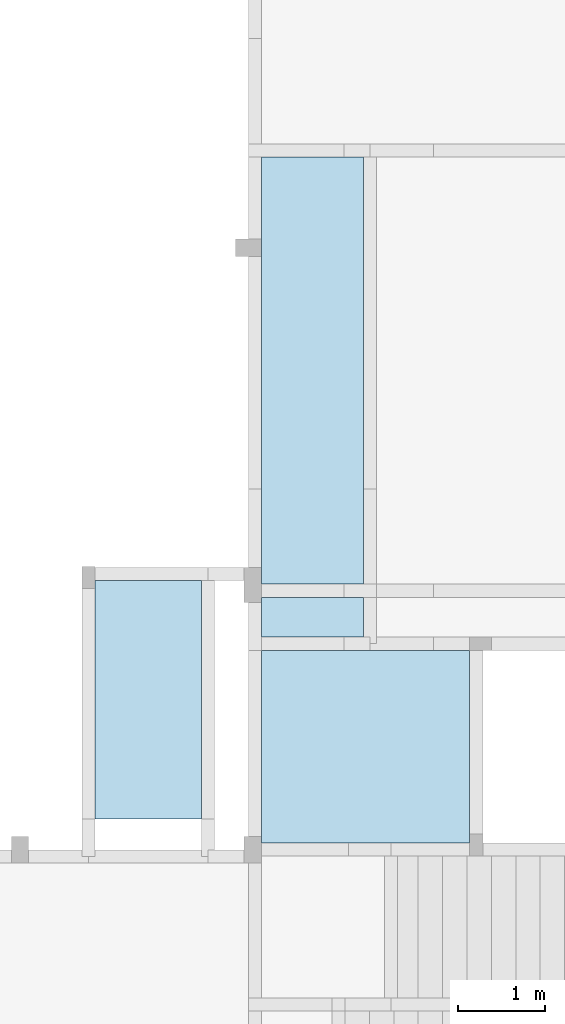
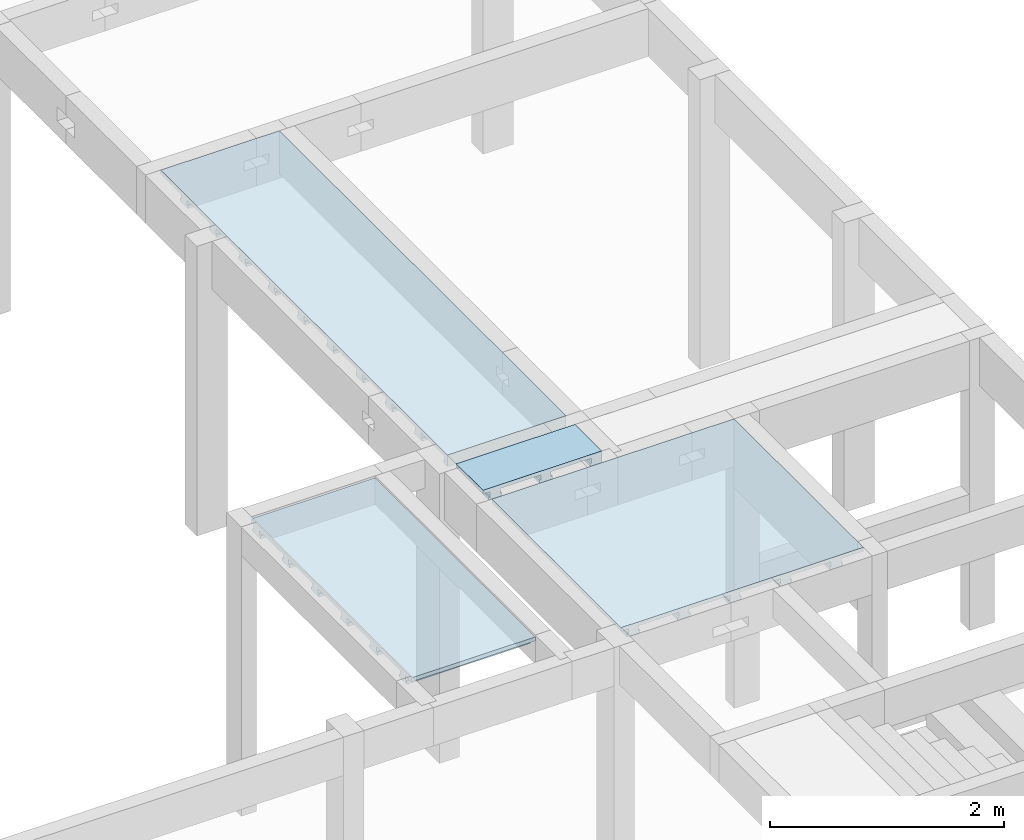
# One storey, part 15 of 21: 4 slabs.
"""IFC4 building model written with IfcOpenShell, lengths in centimetres."""

from ifc_helpers import new_model, si_unit, derived_unit, frame, origin_with_axes, place, context, project, spatial, polyline, outline, extrude, faceted_brep, material, element, save


model = new_model("IFC4")

# Units and contexts
model_context = context("Model", 3, precision=1e-05, world=origin_with_axes(), identifier="Body")
ifc_project = project(units=[si_unit("LENGTHUNIT", "METRE", prefix="CENTI"), si_unit("VOLUMEUNIT", "CUBIC_METRE"), si_unit("AREAUNIT", "SQUARE_METRE"), si_unit("POWERUNIT", "WATT"), si_unit("LUMINOUSFLUXUNIT", "LUMEN"), si_unit("ELECTRICCURRENTUNIT", "AMPERE"), si_unit("PRESSUREUNIT", "PASCAL", prefix="KILO"), si_unit("MASSUNIT", "GRAM", prefix="KILO"), si_unit("PLANEANGLEUNIT", "RADIAN"), derived_unit("VOLUMETRICFLOWRATEUNIT", [(si_unit("LENGTHUNIT", "METRE"), 3), (si_unit("TIMEUNIT", "SECOND"), -1)])], contexts=[model_context])

# Site, building, storey
site_placement = place(None, origin_with_axes())
site = spatial("IfcSite", under=ifc_project, at=site_placement)
building_placement = place(site_placement, frame((0.0, 0.0, -295.0)))
building = spatial("IfcBuilding", under=site, at=building_placement)
placement_1 = place(building_placement, origin_with_axes())
placement_2 = place(placement_1, frame((0.0, 0.0, 101.0), z_axis=(0.0, 0.0, 1.0), x_axis=(1.0, 0.0, 0.0)))
placement_3 = place(placement_2, frame((0.0, 0.0, 204.0), z_axis=(0.0, 0.0, 1.0), x_axis=(1.0, 0.0, 0.0)))
placement_4 = place(placement_3, frame((0.0, 0.0, 292.0), z_axis=(0.0, 0.0, 1.0), x_axis=(1.0, 0.0, 0.0)))
storey_placement = place(placement_4, frame((0.0, 0.0, 302.0), z_axis=(0.0, 0.0, 1.0), x_axis=(1.0, 0.0, 0.0)))
storey = spatial("IfcBuildingStorey", under=building, at=storey_placement, Name="PAVTO 02", CompositionType="ELEMENT", Elevation=604.0)

# Slabs
ifc_material = material(Name="Concreto")
slab_1_placement = place(storey_placement, frame((3579.315, -6279.55, 0.0), z_axis=(0.0, 0.0, 1.0), x_axis=(1.0, 0.0, 0.0)))
element("IfcSlab", 1, at=slab_1_placement, inside=storey, material=ifc_material, Name="L222", PredefinedType="FLOOR", context=model_context, shape_type="SolidModel", body=[
    extrude(outline(polyline([(58.584, -245.0), (58.585, 244.999), (-58.585, 245.0), (-58.585, -244.999), (58.584, -245.0), (58.584, -245.0)])), frame((0.0, 0.0, -4.0), z_axis=(0.0, 0.0, 1.0), x_axis=(1.0, 0.0, 0.0)), (0.0, 0.0, 1.0), 4.0),
    faceted_brep([(-58.585, -190.0, -12.0), (58.5845, -190.0, -12.0), (58.5845, -200.0, -12.0), (-58.585, -200.0, -12.0), (-58.585, -200.0, -4.0), (58.5845, -200.0, -4.0), (58.5845, -190.0, -4.0), (-58.585, -190.0, -4.0)], [[[0, 1, 2, 3]], [[4, 5, 6, 7]], [[4, 3, 5]], [[3, 2, 5]], [[5, 2, 6]], [[2, 1, 6]], [[6, 1, 7]], [[1, 0, 7]], [[7, 0, 4]], [[0, 3, 4]]]),
    faceted_brep([(-58.585, -188.5, -12.0), (58.5845, -188.5, -12.0), (58.5845, -190.0, -12.0), (-58.585, -190.0, -12.0), (-58.585, -190.0, -9.0), (58.5845, -190.0, -9.0), (58.5845, -188.5, -9.0), (-58.585, -188.5, -9.0)], [[[0, 1, 2, 3]], [[4, 5, 6, 7]], [[4, 3, 5]], [[3, 2, 5]], [[5, 2, 6]], [[2, 1, 6]], [[6, 1, 7]], [[1, 0, 7]], [[7, 0, 4]], [[0, 3, 4]]]),
    faceted_brep([(-58.585, -200.0, -12.0), (58.5845, -200.0, -12.0), (58.5845, -201.5, -12.0), (-58.585, -201.5, -12.0), (-58.585, -201.5, -9.0), (58.5845, -201.5, -9.0), (58.5845, -200.0, -9.0), (-58.585, -200.0, -9.0)], [[[0, 1, 2, 3]], [[4, 5, 6, 7]], [[4, 3, 5]], [[3, 2, 5]], [[5, 2, 6]], [[2, 1, 6]], [[6, 1, 7]], [[1, 0, 7]], [[7, 0, 4]], [[0, 3, 4]]]),
    faceted_brep([(-58.585, -140.0, -12.0), (58.5845, -140.0, -12.0), (58.5845, -150.0, -12.0), (-58.585, -150.0, -12.0), (-58.585, -150.0, -4.0), (58.5845, -150.0, -4.0), (58.5845, -140.0, -4.0), (-58.585, -140.0, -4.0)], [[[0, 1, 2, 3]], [[4, 5, 6, 7]], [[4, 3, 5]], [[3, 2, 5]], [[5, 2, 6]], [[2, 1, 6]], [[6, 1, 7]], [[1, 0, 7]], [[7, 0, 4]], [[0, 3, 4]]]),
    faceted_brep([(-58.585, -138.5, -12.0), (58.5845, -138.5, -12.0), (58.5845, -140.0, -12.0), (-58.585, -140.0, -12.0), (-58.585, -140.0, -9.0), (58.5845, -140.0, -9.0), (58.5845, -138.5, -9.0), (-58.585, -138.5, -9.0)], [[[0, 1, 2, 3]], [[4, 5, 6, 7]], [[4, 3, 5]], [[3, 2, 5]], [[5, 2, 6]], [[2, 1, 6]], [[6, 1, 7]], [[1, 0, 7]], [[7, 0, 4]], [[0, 3, 4]]]),
    faceted_brep([(-58.585, -150.0, -12.0), (58.5845, -150.0, -12.0), (58.5845, -151.5, -12.0), (-58.585, -151.5, -12.0), (-58.585, -151.5, -9.0), (58.5845, -151.5, -9.0), (58.5845, -150.0, -9.0), (-58.585, -150.0, -9.0)], [[[0, 1, 2, 3]], [[4, 5, 6, 7]], [[4, 3, 5]], [[3, 2, 5]], [[5, 2, 6]], [[2, 1, 6]], [[6, 1, 7]], [[1, 0, 7]], [[7, 0, 4]], [[0, 3, 4]]]),
    faceted_brep([(-58.585, -90.0, -12.0), (58.5845, -90.0, -12.0), (58.5845, -100.0, -12.0), (-58.585, -100.0, -12.0), (-58.585, -100.0, -4.0), (58.5845, -100.0, -4.0), (58.5845, -90.0, -4.0), (-58.585, -90.0, -4.0)], [[[0, 1, 2, 3]], [[4, 5, 6, 7]], [[4, 3, 5]], [[3, 2, 5]], [[5, 2, 6]], [[2, 1, 6]], [[6, 1, 7]], [[1, 0, 7]], [[7, 0, 4]], [[0, 3, 4]]]),
    faceted_brep([(-58.585, -88.5, -12.0), (58.5845, -88.5, -12.0), (58.5845, -90.0, -12.0), (-58.585, -90.0, -12.0), (-58.585, -90.0, -9.0), (58.5845, -90.0, -9.0), (58.5845, -88.5, -9.0), (-58.585, -88.5, -9.0)], [[[0, 1, 2, 3]], [[4, 5, 6, 7]], [[4, 3, 5]], [[3, 2, 5]], [[5, 2, 6]], [[2, 1, 6]], [[6, 1, 7]], [[1, 0, 7]], [[7, 0, 4]], [[0, 3, 4]]]),
    faceted_brep([(-58.585, -100.0, -12.0), (58.5845, -100.0, -12.0), (58.5845, -101.5, -12.0), (-58.585, -101.5, -12.0), (-58.585, -101.5, -9.0), (58.5845, -101.5, -9.0), (58.5845, -100.0, -9.0), (-58.585, -100.0, -9.0)], [[[0, 1, 2, 3]], [[4, 5, 6, 7]], [[4, 3, 5]], [[3, 2, 5]], [[5, 2, 6]], [[2, 1, 6]], [[6, 1, 7]], [[1, 0, 7]], [[7, 0, 4]], [[0, 3, 4]]]),
    faceted_brep([(-58.585, -40.0, -12.0), (58.5845, -40.0, -12.0), (58.5845, -50.0, -12.0), (-58.585, -50.0, -12.0), (-58.585, -50.0, -4.0), (58.5845, -50.0, -4.0), (58.5845, -40.0, -4.0), (-58.585, -40.0, -4.0)], [[[0, 1, 2, 3]], [[4, 5, 6, 7]], [[4, 3, 5]], [[3, 2, 5]], [[5, 2, 6]], [[2, 1, 6]], [[6, 1, 7]], [[1, 0, 7]], [[7, 0, 4]], [[0, 3, 4]]]),
    faceted_brep([(-58.585, -38.5, -12.0), (58.5845, -38.5, -12.0), (58.5845, -40.0, -12.0), (-58.585, -40.0, -12.0), (-58.585, -40.0, -9.0), (58.5845, -40.0, -9.0), (58.5845, -38.5, -9.0), (-58.585, -38.5, -9.0)], [[[0, 1, 2, 3]], [[4, 5, 6, 7]], [[4, 3, 5]], [[3, 2, 5]], [[5, 2, 6]], [[2, 1, 6]], [[6, 1, 7]], [[1, 0, 7]], [[7, 0, 4]], [[0, 3, 4]]]),
    faceted_brep([(-58.585, -50.0, -12.0), (58.5845, -50.0, -12.0), (58.5845, -51.5, -12.0), (-58.585, -51.5, -12.0), (-58.585, -51.5, -9.0), (58.5845, -51.5, -9.0), (58.5845, -50.0, -9.0), (-58.585, -50.0, -9.0)], [[[0, 1, 2, 3]], [[4, 5, 6, 7]], [[4, 3, 5]], [[3, 2, 5]], [[5, 2, 6]], [[2, 1, 6]], [[6, 1, 7]], [[1, 0, 7]], [[7, 0, 4]], [[0, 3, 4]]]),
    faceted_brep([(-58.585, 10.0, -12.0), (58.5845, 10.0, -12.0), (58.5845, 0.0, -12.0), (-58.585, 0.0, -12.0), (-58.585, 0.0, -4.0), (58.5845, 0.0, -4.0), (58.5845, 10.0, -4.0), (-58.585, 10.0, -4.0)], [[[0, 1, 2, 3]], [[4, 5, 6, 7]], [[4, 3, 5]], [[3, 2, 5]], [[5, 2, 6]], [[2, 1, 6]], [[6, 1, 7]], [[1, 0, 7]], [[7, 0, 4]], [[0, 3, 4]]]),
    faceted_brep([(-58.585, 11.5, -12.0), (58.5845, 11.5, -12.0), (58.5845, 10.0, -12.0), (-58.585, 10.0, -12.0), (-58.585, 10.0, -9.0), (58.5845, 10.0, -9.0), (58.5845, 11.5, -9.0), (-58.585, 11.5, -9.0)], [[[0, 1, 2, 3]], [[4, 5, 6, 7]], [[4, 3, 5]], [[3, 2, 5]], [[5, 2, 6]], [[2, 1, 6]], [[6, 1, 7]], [[1, 0, 7]], [[7, 0, 4]], [[0, 3, 4]]]),
    faceted_brep([(-58.585, 0.0, -12.0), (58.5845, 0.0, -12.0), (58.5845, -1.5, -12.0), (-58.585, -1.5, -12.0), (-58.585, -1.5, -9.0), (58.5845, -1.5, -9.0), (58.5845, 0.0, -9.0), (-58.585, 0.0, -9.0)], [[[0, 1, 2, 3]], [[4, 5, 6, 7]], [[4, 3, 5]], [[3, 2, 5]], [[5, 2, 6]], [[2, 1, 6]], [[6, 1, 7]], [[1, 0, 7]], [[7, 0, 4]], [[0, 3, 4]]]),
    faceted_brep([(-58.585, 60.0, -12.0), (58.5845, 60.0, -12.0), (58.5845, 50.0, -12.0), (-58.585, 50.0, -12.0), (-58.585, 50.0, -4.0), (58.5845, 50.0, -4.0), (58.5845, 60.0, -4.0), (-58.585, 60.0, -4.0)], [[[0, 1, 2, 3]], [[4, 5, 6, 7]], [[4, 3, 5]], [[3, 2, 5]], [[5, 2, 6]], [[2, 1, 6]], [[6, 1, 7]], [[1, 0, 7]], [[7, 0, 4]], [[0, 3, 4]]]),
    faceted_brep([(-58.585, 61.5, -12.0), (58.5845, 61.5, -12.0), (58.5845, 60.0, -12.0), (-58.585, 60.0, -12.0), (-58.585, 60.0, -9.0), (58.5845, 60.0, -9.0), (58.5845, 61.5, -9.0), (-58.585, 61.5, -9.0)], [[[0, 1, 2, 3]], [[4, 5, 6, 7]], [[4, 3, 5]], [[3, 2, 5]], [[5, 2, 6]], [[2, 1, 6]], [[6, 1, 7]], [[1, 0, 7]], [[7, 0, 4]], [[0, 3, 4]]]),
    faceted_brep([(-58.585, 50.0, -12.0), (58.5845, 50.0, -12.0), (58.5845, 48.5, -12.0), (-58.585, 48.5, -12.0), (-58.585, 48.5, -9.0), (58.5845, 48.5, -9.0), (58.5845, 50.0, -9.0), (-58.585, 50.0, -9.0)], [[[0, 1, 2, 3]], [[4, 5, 6, 7]], [[4, 3, 5]], [[3, 2, 5]], [[5, 2, 6]], [[2, 1, 6]], [[6, 1, 7]], [[1, 0, 7]], [[7, 0, 4]], [[0, 3, 4]]]),
    faceted_brep([(-58.585, 110.0, -12.0), (58.5845, 110.0, -12.0), (58.5845, 100.0, -12.0), (-58.585, 100.0, -12.0), (-58.585, 100.0, -4.0), (58.5845, 100.0, -4.0), (58.5845, 110.0, -4.0), (-58.585, 110.0, -4.0)], [[[0, 1, 2, 3]], [[4, 5, 6, 7]], [[4, 3, 5]], [[3, 2, 5]], [[5, 2, 6]], [[2, 1, 6]], [[6, 1, 7]], [[1, 0, 7]], [[7, 0, 4]], [[0, 3, 4]]]),
    faceted_brep([(-58.585, 111.5, -12.0), (58.5845, 111.5, -12.0), (58.5845, 110.0, -12.0), (-58.585, 110.0, -12.0), (-58.585, 110.0, -9.0), (58.5845, 110.0, -9.0), (58.5845, 111.5, -9.0), (-58.585, 111.5, -9.0)], [[[0, 1, 2, 3]], [[4, 5, 6, 7]], [[4, 3, 5]], [[3, 2, 5]], [[5, 2, 6]], [[2, 1, 6]], [[6, 1, 7]], [[1, 0, 7]], [[7, 0, 4]], [[0, 3, 4]]]),
    faceted_brep([(-58.585, 100.0, -12.0), (58.5845, 100.0, -12.0), (58.5845, 98.5, -12.0), (-58.585, 98.5, -12.0), (-58.585, 98.5, -9.0), (58.5845, 98.5, -9.0), (58.5845, 100.0, -9.0), (-58.585, 100.0, -9.0)], [[[0, 1, 2, 3]], [[4, 5, 6, 7]], [[4, 3, 5]], [[3, 2, 5]], [[5, 2, 6]], [[2, 1, 6]], [[6, 1, 7]], [[1, 0, 7]], [[7, 0, 4]], [[0, 3, 4]]]),
    faceted_brep([(-58.585, 160.0, -12.0), (58.5845, 160.0, -12.0), (58.5845, 150.0, -12.0), (-58.585, 150.0, -12.0), (-58.585, 150.0, -4.0), (58.5845, 150.0, -4.0), (58.5845, 160.0, -4.0), (-58.585, 160.0, -4.0)], [[[0, 1, 2, 3]], [[4, 5, 6, 7]], [[4, 3, 5]], [[3, 2, 5]], [[5, 2, 6]], [[2, 1, 6]], [[6, 1, 7]], [[1, 0, 7]], [[7, 0, 4]], [[0, 3, 4]]]),
    faceted_brep([(-58.585, 161.5, -12.0), (58.5845, 161.5, -12.0), (58.5845, 160.0, -12.0), (-58.585, 160.0, -12.0), (-58.585, 160.0, -9.0), (58.5845, 160.0, -9.0), (58.5845, 161.5, -9.0), (-58.585, 161.5, -9.0)], [[[0, 1, 2, 3]], [[4, 5, 6, 7]], [[4, 3, 5]], [[3, 2, 5]], [[5, 2, 6]], [[2, 1, 6]], [[6, 1, 7]], [[1, 0, 7]], [[7, 0, 4]], [[0, 3, 4]]]),
    faceted_brep([(-58.585, 150.0, -12.0), (58.5845, 150.0, -12.0), (58.5845, 148.5, -12.0), (-58.585, 148.5, -12.0), (-58.585, 148.5, -9.0), (58.5845, 148.5, -9.0), (58.5845, 150.0, -9.0), (-58.585, 150.0, -9.0)], [[[0, 1, 2, 3]], [[4, 5, 6, 7]], [[4, 3, 5]], [[3, 2, 5]], [[5, 2, 6]], [[2, 1, 6]], [[6, 1, 7]], [[1, 0, 7]], [[7, 0, 4]], [[0, 3, 4]]]),
    faceted_brep([(-58.585, 210.0, -12.0), (58.5845, 210.0, -12.0), (58.5845, 200.0, -12.0), (-58.585, 200.0, -12.0), (-58.585, 200.0, -4.0), (58.5845, 200.0, -4.0), (58.5845, 210.0, -4.0), (-58.585, 210.0, -4.0)], [[[0, 1, 2, 3]], [[4, 5, 6, 7]], [[4, 3, 5]], [[3, 2, 5]], [[5, 2, 6]], [[2, 1, 6]], [[6, 1, 7]], [[1, 0, 7]], [[7, 0, 4]], [[0, 3, 4]]]),
    faceted_brep([(-58.585, 211.5, -12.0), (58.5845, 211.5, -12.0), (58.5845, 210.0, -12.0), (-58.585, 210.0, -12.0), (-58.585, 210.0, -9.0), (58.5845, 210.0, -9.0), (58.5845, 211.5, -9.0), (-58.585, 211.5, -9.0)], [[[0, 1, 2, 3]], [[4, 5, 6, 7]], [[4, 3, 5]], [[3, 2, 5]], [[5, 2, 6]], [[2, 1, 6]], [[6, 1, 7]], [[1, 0, 7]], [[7, 0, 4]], [[0, 3, 4]]]),
    faceted_brep([(-58.585, 200.0, -12.0), (58.5845, 200.0, -12.0), (58.5845, 198.5, -12.0), (-58.585, 198.5, -12.0), (-58.585, 198.5, -9.0), (58.5845, 198.5, -9.0), (58.5845, 200.0, -9.0), (-58.585, 200.0, -9.0)], [[[0, 1, 2, 3]], [[4, 5, 6, 7]], [[4, 3, 5]], [[3, 2, 5]], [[5, 2, 6]], [[2, 1, 6]], [[6, 1, 7]], [[1, 0, 7]], [[7, 0, 4]], [[0, 3, 4]]]),
    faceted_brep([(-58.585, -240.0, -12.0), (58.5845, -240.0, -12.0), (58.584, -244.9995, -12.0), (-58.585, -244.9995, -12.0), (-58.585, -244.9995, -4.0), (58.584, -244.9995, -4.0), (58.5845, -240.0, -4.0), (-58.585, -240.0, -4.0)], [[[0, 1, 2, 3]], [[4, 5, 6, 7]], [[4, 3, 5]], [[3, 2, 5]], [[5, 2, 6]], [[2, 1, 6]], [[6, 1, 7]], [[1, 0, 7]], [[7, 0, 4]], [[0, 3, 4]]]),
    faceted_brep([(-58.585, -238.5, -12.0), (58.5845, -238.5, -12.0), (58.5845, -240.0, -12.0), (-58.585, -240.0, -12.0), (-58.585, -240.0, -9.0), (58.5845, -240.0, -9.0), (58.5845, -238.5, -9.0), (-58.585, -238.5, -9.0)], [[[0, 1, 2, 3]], [[4, 5, 6, 7]], [[4, 3, 5]], [[3, 2, 5]], [[5, 2, 6]], [[2, 1, 6]], [[6, 1, 7]], [[1, 0, 7]], [[7, 0, 4]], [[0, 3, 4]]]),
])
slab_2_placement = place(storey_placement, frame((3390.7305, -6657.375, -2.0), z_axis=(0.0, 0.0, 1.0), x_axis=(1.0, 0.0, 0.0)))
element("IfcSlab", 2, at=slab_2_placement, inside=storey, material=ifc_material, Name="L228", PredefinedType="FLOOR", context=model_context, shape_type="SolidModel", body=[
    extrude(outline(polyline([(60.999, 136.824), (-60.999, 136.824), (-60.999, -136.824), (61.0, -136.824), (60.999, 136.824), (60.999, 136.824)])), frame((-0.0005, 0.0, -4.0), z_axis=(0.0, 0.0, 1.0), x_axis=(1.0, 0.0, 0.0)), (0.0, 0.0, 1.0), 4.0),
    faceted_brep([(-60.9995, -116.825, -12.0), (60.999, -116.825, -12.0), (60.999, -126.825, -12.0), (-60.9995, -126.825, -12.0), (-60.9995, -126.825, -4.0), (60.999, -126.825, -4.0), (60.999, -116.825, -4.0), (-60.9995, -116.825, -4.0)], [[[0, 1, 2, 3]], [[4, 5, 6, 7]], [[4, 3, 5]], [[3, 2, 5]], [[5, 2, 6]], [[2, 1, 6]], [[6, 1, 7]], [[1, 0, 7]], [[7, 0, 4]], [[0, 3, 4]]]),
    faceted_brep([(-60.9995, -115.325, -12.0), (60.999, -115.325, -12.0), (60.999, -116.825, -12.0), (-60.9995, -116.825, -12.0), (-60.9995, -116.825, -9.0), (60.999, -116.825, -9.0), (60.999, -115.325, -9.0), (-60.9995, -115.325, -9.0)], [[[0, 1, 2, 3]], [[4, 5, 6, 7]], [[4, 3, 5]], [[3, 2, 5]], [[5, 2, 6]], [[2, 1, 6]], [[6, 1, 7]], [[1, 0, 7]], [[7, 0, 4]], [[0, 3, 4]]]),
    faceted_brep([(-60.9995, -126.825, -12.0), (60.999, -126.825, -12.0), (60.999, -128.325, -12.0), (-60.9995, -128.325, -12.0), (-60.9995, -128.325, -9.0), (60.999, -128.325, -9.0), (60.999, -126.825, -9.0), (-60.9995, -126.825, -9.0)], [[[0, 1, 2, 3]], [[4, 5, 6, 7]], [[4, 3, 5]], [[3, 2, 5]], [[5, 2, 6]], [[2, 1, 6]], [[6, 1, 7]], [[1, 0, 7]], [[7, 0, 4]], [[0, 3, 4]]]),
    faceted_brep([(-60.9995, -66.825, -12.0), (60.999, -66.825, -12.0), (60.999, -76.825, -12.0), (-60.9995, -76.825, -12.0), (-60.9995, -76.825, -4.0), (60.999, -76.825, -4.0), (60.999, -66.825, -4.0), (-60.9995, -66.825, -4.0)], [[[0, 1, 2, 3]], [[4, 5, 6, 7]], [[4, 3, 5]], [[3, 2, 5]], [[5, 2, 6]], [[2, 1, 6]], [[6, 1, 7]], [[1, 0, 7]], [[7, 0, 4]], [[0, 3, 4]]]),
    faceted_brep([(-60.9995, -65.325, -12.0), (60.999, -65.325, -12.0), (60.999, -66.825, -12.0), (-60.9995, -66.825, -12.0), (-60.9995, -66.825, -9.0), (60.999, -66.825, -9.0), (60.999, -65.325, -9.0), (-60.9995, -65.325, -9.0)], [[[0, 1, 2, 3]], [[4, 5, 6, 7]], [[4, 3, 5]], [[3, 2, 5]], [[5, 2, 6]], [[2, 1, 6]], [[6, 1, 7]], [[1, 0, 7]], [[7, 0, 4]], [[0, 3, 4]]]),
    faceted_brep([(-60.9995, -76.825, -12.0), (60.999, -76.825, -12.0), (60.999, -78.325, -12.0), (-60.9995, -78.325, -12.0), (-60.9995, -78.325, -9.0), (60.999, -78.325, -9.0), (60.999, -76.825, -9.0), (-60.9995, -76.825, -9.0)], [[[0, 1, 2, 3]], [[4, 5, 6, 7]], [[4, 3, 5]], [[3, 2, 5]], [[5, 2, 6]], [[2, 1, 6]], [[6, 1, 7]], [[1, 0, 7]], [[7, 0, 4]], [[0, 3, 4]]]),
    faceted_brep([(-60.9995, -16.825, -12.0), (60.999, -16.825, -12.0), (60.999, -26.825, -12.0), (-60.9995, -26.825, -12.0), (-60.9995, -26.825, -4.0), (60.999, -26.825, -4.0), (60.999, -16.825, -4.0), (-60.9995, -16.825, -4.0)], [[[0, 1, 2, 3]], [[4, 5, 6, 7]], [[4, 3, 5]], [[3, 2, 5]], [[5, 2, 6]], [[2, 1, 6]], [[6, 1, 7]], [[1, 0, 7]], [[7, 0, 4]], [[0, 3, 4]]]),
    faceted_brep([(-60.9995, -15.325, -12.0), (60.999, -15.325, -12.0), (60.999, -16.825, -12.0), (-60.9995, -16.825, -12.0), (-60.9995, -16.825, -9.0), (60.999, -16.825, -9.0), (60.999, -15.325, -9.0), (-60.9995, -15.325, -9.0)], [[[0, 1, 2, 3]], [[4, 5, 6, 7]], [[4, 3, 5]], [[3, 2, 5]], [[5, 2, 6]], [[2, 1, 6]], [[6, 1, 7]], [[1, 0, 7]], [[7, 0, 4]], [[0, 3, 4]]]),
    faceted_brep([(-60.9995, -26.825, -12.0), (60.999, -26.825, -12.0), (60.999, -28.325, -12.0), (-60.9995, -28.325, -12.0), (-60.9995, -28.325, -9.0), (60.999, -28.325, -9.0), (60.999, -26.825, -9.0), (-60.9995, -26.825, -9.0)], [[[0, 1, 2, 3]], [[4, 5, 6, 7]], [[4, 3, 5]], [[3, 2, 5]], [[5, 2, 6]], [[2, 1, 6]], [[6, 1, 7]], [[1, 0, 7]], [[7, 0, 4]], [[0, 3, 4]]]),
    faceted_brep([(-60.9995, 33.175, -12.0), (60.999, 33.175, -12.0), (60.999, 23.175, -12.0), (-60.9995, 23.175, -12.0), (-60.9995, 23.175, -4.0), (60.999, 23.175, -4.0), (60.999, 33.175, -4.0), (-60.9995, 33.175, -4.0)], [[[0, 1, 2, 3]], [[4, 5, 6, 7]], [[4, 3, 5]], [[3, 2, 5]], [[5, 2, 6]], [[2, 1, 6]], [[6, 1, 7]], [[1, 0, 7]], [[7, 0, 4]], [[0, 3, 4]]]),
    faceted_brep([(-60.9995, 34.675, -12.0), (60.999, 34.675, -12.0), (60.999, 33.175, -12.0), (-60.9995, 33.175, -12.0), (-60.9995, 33.175, -9.0), (60.999, 33.175, -9.0), (60.999, 34.675, -9.0), (-60.9995, 34.675, -9.0)], [[[0, 1, 2, 3]], [[4, 5, 6, 7]], [[4, 3, 5]], [[3, 2, 5]], [[5, 2, 6]], [[2, 1, 6]], [[6, 1, 7]], [[1, 0, 7]], [[7, 0, 4]], [[0, 3, 4]]]),
    faceted_brep([(-60.9995, 23.175, -12.0), (60.999, 23.175, -12.0), (60.999, 21.675, -12.0), (-60.9995, 21.675, -12.0), (-60.9995, 21.675, -9.0), (60.999, 21.675, -9.0), (60.999, 23.175, -9.0), (-60.9995, 23.175, -9.0)], [[[0, 1, 2, 3]], [[4, 5, 6, 7]], [[4, 3, 5]], [[3, 2, 5]], [[5, 2, 6]], [[2, 1, 6]], [[6, 1, 7]], [[1, 0, 7]], [[7, 0, 4]], [[0, 3, 4]]]),
    faceted_brep([(-60.9995, 83.175, -12.0), (60.999, 83.175, -12.0), (60.999, 73.175, -12.0), (-60.9995, 73.175, -12.0), (-60.9995, 73.175, -4.0), (60.999, 73.175, -4.0), (60.999, 83.175, -4.0), (-60.9995, 83.175, -4.0)], [[[0, 1, 2, 3]], [[4, 5, 6, 7]], [[4, 3, 5]], [[3, 2, 5]], [[5, 2, 6]], [[2, 1, 6]], [[6, 1, 7]], [[1, 0, 7]], [[7, 0, 4]], [[0, 3, 4]]]),
    faceted_brep([(-60.9995, 84.675, -12.0), (60.999, 84.675, -12.0), (60.999, 83.175, -12.0), (-60.9995, 83.175, -12.0), (-60.9995, 83.175, -9.0), (60.999, 83.175, -9.0), (60.999, 84.675, -9.0), (-60.9995, 84.675, -9.0)], [[[0, 1, 2, 3]], [[4, 5, 6, 7]], [[4, 3, 5]], [[3, 2, 5]], [[5, 2, 6]], [[2, 1, 6]], [[6, 1, 7]], [[1, 0, 7]], [[7, 0, 4]], [[0, 3, 4]]]),
    faceted_brep([(-60.9995, 73.175, -12.0), (60.999, 73.175, -12.0), (60.999, 71.675, -12.0), (-60.9995, 71.675, -12.0), (-60.9995, 71.675, -9.0), (60.999, 71.675, -9.0), (60.999, 73.175, -9.0), (-60.9995, 73.175, -9.0)], [[[0, 1, 2, 3]], [[4, 5, 6, 7]], [[4, 3, 5]], [[3, 2, 5]], [[5, 2, 6]], [[2, 1, 6]], [[6, 1, 7]], [[1, 0, 7]], [[7, 0, 4]], [[0, 3, 4]]]),
    faceted_brep([(-60.9995, 133.175, -12.0), (60.999, 133.175, -12.0), (60.999, 123.175, -12.0), (-60.9995, 123.175, -12.0), (-60.9995, 123.175, -4.0), (60.999, 123.175, -4.0), (60.999, 133.175, -4.0), (-60.9995, 133.175, -4.0)], [[[0, 1, 2, 3]], [[4, 5, 6, 7]], [[4, 3, 5]], [[3, 2, 5]], [[5, 2, 6]], [[2, 1, 6]], [[6, 1, 7]], [[1, 0, 7]], [[7, 0, 4]], [[0, 3, 4]]]),
    faceted_brep([(-60.9995, 134.675, -12.0), (60.999, 134.675, -12.0), (60.999, 133.175, -12.0), (-60.9995, 133.175, -12.0), (-60.9995, 133.175, -9.0), (60.999, 133.175, -9.0), (60.999, 134.675, -9.0), (-60.9995, 134.675, -9.0)], [[[0, 1, 2, 3]], [[4, 5, 6, 7]], [[4, 3, 5]], [[3, 2, 5]], [[5, 2, 6]], [[2, 1, 6]], [[6, 1, 7]], [[1, 0, 7]], [[7, 0, 4]], [[0, 3, 4]]]),
    faceted_brep([(-60.9995, 123.175, -12.0), (60.999, 123.175, -12.0), (60.999, 121.675, -12.0), (-60.9995, 121.675, -12.0), (-60.9995, 121.675, -9.0), (60.999, 121.675, -9.0), (60.999, 123.175, -9.0), (-60.9995, 123.175, -9.0)], [[[0, 1, 2, 3]], [[4, 5, 6, 7]], [[4, 3, 5]], [[3, 2, 5]], [[5, 2, 6]], [[2, 1, 6]], [[6, 1, 7]], [[1, 0, 7]], [[7, 0, 4]], [[0, 3, 4]]]),
])
slab_3_placement = place(storey_placement, frame((3579.315, -6562.43, 0.0), z_axis=(0.0, 0.0, 1.0), x_axis=(1.0, 0.0, 0.0)))
element("IfcSlab", 3, at=slab_3_placement, inside=storey, material=ifc_material, Name="L229", PredefinedType="FLOOR", context=model_context, shape_type="SolidModel", body=[
    extrude(outline(polyline([(58.585, 22.879), (-58.585, 22.88), (-58.584, -22.879), (58.585, -22.88), (58.585, 22.879), (58.585, 22.879)])), frame((0.0, 0.0, -4.0), z_axis=(0.0, 0.0, 1.0), x_axis=(1.0, 0.0, 0.0)), (0.0, 0.0, 1.0), 4.0),
    faceted_brep([(48.585, -22.8795, -12.0), (48.585, 22.8795, -12.0), (58.585, 22.8795, -12.0), (58.585, -22.8795, -12.0), (58.585, -22.8795, -4.0), (58.585, 22.8795, -4.0), (48.585, 22.8795, -4.0), (48.585, -22.8795, -4.0)], [[[0, 1, 2, 3]], [[4, 5, 6, 7]], [[4, 3, 5]], [[3, 2, 5]], [[5, 2, 6]], [[2, 1, 6]], [[6, 1, 7]], [[1, 0, 7]], [[7, 0, 4]], [[0, 3, 4]]]),
    faceted_brep([(47.085, -22.8795, -12.0), (47.085, 22.8795, -12.0), (48.585, 22.8795, -12.0), (48.585, -22.8795, -12.0), (48.585, -22.8795, -9.0), (48.585, 22.8795, -9.0), (47.085, 22.8795, -9.0), (47.085, -22.8795, -9.0)], [[[0, 1, 2, 3]], [[4, 5, 6, 7]], [[4, 3, 5]], [[3, 2, 5]], [[5, 2, 6]], [[2, 1, 6]], [[6, 1, 7]], [[1, 0, 7]], [[7, 0, 4]], [[0, 3, 4]]]),
    faceted_brep([(-1.415, -22.8795, -12.0), (-1.415, 22.8795, -12.0), (8.585, 22.8795, -12.0), (8.585, -22.8795, -12.0), (8.585, -22.8795, -4.0), (8.585, 22.8795, -4.0), (-1.415, 22.8795, -4.0), (-1.415, -22.8795, -4.0)], [[[0, 1, 2, 3]], [[4, 5, 6, 7]], [[4, 3, 5]], [[3, 2, 5]], [[5, 2, 6]], [[2, 1, 6]], [[6, 1, 7]], [[1, 0, 7]], [[7, 0, 4]], [[0, 3, 4]]]),
    faceted_brep([(-2.915, -22.8795, -12.0), (-2.915, 22.8795, -12.0), (-1.415, 22.8795, -12.0), (-1.415, -22.8795, -12.0), (-1.415, -22.8795, -9.0), (-1.415, 22.8795, -9.0), (-2.915, 22.8795, -9.0), (-2.915, -22.8795, -9.0)], [[[0, 1, 2, 3]], [[4, 5, 6, 7]], [[4, 3, 5]], [[3, 2, 5]], [[5, 2, 6]], [[2, 1, 6]], [[6, 1, 7]], [[1, 0, 7]], [[7, 0, 4]], [[0, 3, 4]]]),
    faceted_brep([(8.585, -22.8795, -12.0), (8.585, 22.8795, -12.0), (10.085, 22.8795, -12.0), (10.085, -22.8795, -12.0), (10.085, -22.8795, -9.0), (10.085, 22.8795, -9.0), (8.585, 22.8795, -9.0), (8.585, -22.8795, -9.0)], [[[0, 1, 2, 3]], [[4, 5, 6, 7]], [[4, 3, 5]], [[3, 2, 5]], [[5, 2, 6]], [[2, 1, 6]], [[6, 1, 7]], [[1, 0, 7]], [[7, 0, 4]], [[0, 3, 4]]]),
    faceted_brep([(-51.415, -22.8795, -12.0), (-51.415, 22.8795, -12.0), (-41.415, 22.8795, -12.0), (-41.415, -22.8795, -12.0), (-41.415, -22.8795, -4.0), (-41.415, 22.8795, -4.0), (-51.415, 22.8795, -4.0), (-51.415, -22.8795, -4.0)], [[[0, 1, 2, 3]], [[4, 5, 6, 7]], [[4, 3, 5]], [[3, 2, 5]], [[5, 2, 6]], [[2, 1, 6]], [[6, 1, 7]], [[1, 0, 7]], [[7, 0, 4]], [[0, 3, 4]]]),
    faceted_brep([(-52.915, -22.8795, -12.0), (-52.915, 22.8795, -12.0), (-51.415, 22.8795, -12.0), (-51.415, -22.8795, -12.0), (-51.415, -22.8795, -9.0), (-51.415, 22.8795, -9.0), (-52.915, 22.8795, -9.0), (-52.915, -22.8795, -9.0)], [[[0, 1, 2, 3]], [[4, 5, 6, 7]], [[4, 3, 5]], [[3, 2, 5]], [[5, 2, 6]], [[2, 1, 6]], [[6, 1, 7]], [[1, 0, 7]], [[7, 0, 4]], [[0, 3, 4]]]),
    faceted_brep([(-41.415, -22.8795, -12.0), (-41.415, 22.8795, -12.0), (-39.915, 22.8795, -12.0), (-39.915, -22.8795, -12.0), (-39.915, -22.8795, -9.0), (-39.915, 22.8795, -9.0), (-41.415, 22.8795, -9.0), (-41.415, -22.8795, -9.0)], [[[0, 1, 2, 3]], [[4, 5, 6, 7]], [[4, 3, 5]], [[3, 2, 5]], [[5, 2, 6]], [[2, 1, 6]], [[6, 1, 7]], [[1, 0, 7]], [[7, 0, 4]], [[0, 3, 4]]]),
])
slab_4_placement = place(storey_placement, frame((3640.23, -6710.7995, 0.0), z_axis=(0.0, 0.0, 1.0), x_axis=(1.0, 0.0, 0.0)))
element("IfcSlab", 4, at=slab_4_placement, inside=storey, material=ifc_material, Name="L234", PredefinedType="FLOOR", context=model_context, shape_type="SolidModel", body=[
    extrude(outline(polyline([(119.5, 110.489), (-119.5, 110.49), (-119.499, -110.489), (119.5, -110.489), (119.5, 110.489), (119.5, 110.489)])), frame((0.0, -0.0005, -4.0), z_axis=(0.0, 0.0, 1.0), x_axis=(1.0, 0.0, 0.0)), (0.0, 0.0, 1.0), 4.0),
    faceted_brep([(-12.33, -110.4895, -12.0), (-12.33, 110.489, -12.0), (-2.33, 110.489, -12.0), (-2.33, -110.4895, -12.0), (-2.33, -110.4895, -4.0), (-2.33, 110.489, -4.0), (-12.33, 110.489, -4.0), (-12.33, -110.4895, -4.0)], [[[0, 1, 2, 3]], [[4, 5, 6, 7]], [[4, 3, 5]], [[3, 2, 5]], [[5, 2, 6]], [[2, 1, 6]], [[6, 1, 7]], [[1, 0, 7]], [[7, 0, 4]], [[0, 3, 4]]]),
    faceted_brep([(-13.83, -110.4895, -12.0), (-13.83, 110.489, -12.0), (-12.33, 110.489, -12.0), (-12.33, -110.4895, -12.0), (-12.33, -110.4895, -9.0), (-12.33, 110.489, -9.0), (-13.83, 110.489, -9.0), (-13.83, -110.4895, -9.0)], [[[0, 1, 2, 3]], [[4, 5, 6, 7]], [[4, 3, 5]], [[3, 2, 5]], [[5, 2, 6]], [[2, 1, 6]], [[6, 1, 7]], [[1, 0, 7]], [[7, 0, 4]], [[0, 3, 4]]]),
    faceted_brep([(-2.33, -110.4895, -12.0), (-2.33, 110.489, -12.0), (-0.83, 110.489, -12.0), (-0.83, -110.4895, -12.0), (-0.83, -110.4895, -9.0), (-0.83, 110.489, -9.0), (-2.33, 110.489, -9.0), (-2.33, -110.4895, -9.0)], [[[0, 1, 2, 3]], [[4, 5, 6, 7]], [[4, 3, 5]], [[3, 2, 5]], [[5, 2, 6]], [[2, 1, 6]], [[6, 1, 7]], [[1, 0, 7]], [[7, 0, 4]], [[0, 3, 4]]]),
    faceted_brep([(-62.33, -110.4895, -12.0), (-62.33, 110.489, -12.0), (-52.33, 110.489, -12.0), (-52.33, -110.4895, -12.0), (-52.33, -110.4895, -4.0), (-52.33, 110.489, -4.0), (-62.33, 110.489, -4.0), (-62.33, -110.4895, -4.0)], [[[0, 1, 2, 3]], [[4, 5, 6, 7]], [[4, 3, 5]], [[3, 2, 5]], [[5, 2, 6]], [[2, 1, 6]], [[6, 1, 7]], [[1, 0, 7]], [[7, 0, 4]], [[0, 3, 4]]]),
    faceted_brep([(-63.83, -110.4895, -12.0), (-63.83, 110.489, -12.0), (-62.33, 110.489, -12.0), (-62.33, -110.4895, -12.0), (-62.33, -110.4895, -9.0), (-62.33, 110.489, -9.0), (-63.83, 110.489, -9.0), (-63.83, -110.4895, -9.0)], [[[0, 1, 2, 3]], [[4, 5, 6, 7]], [[4, 3, 5]], [[3, 2, 5]], [[5, 2, 6]], [[2, 1, 6]], [[6, 1, 7]], [[1, 0, 7]], [[7, 0, 4]], [[0, 3, 4]]]),
    faceted_brep([(-52.33, -110.4895, -12.0), (-52.33, 110.489, -12.0), (-50.83, 110.489, -12.0), (-50.83, -110.4895, -12.0), (-50.83, -110.4895, -9.0), (-50.83, 110.489, -9.0), (-52.33, 110.489, -9.0), (-52.33, -110.4895, -9.0)], [[[0, 1, 2, 3]], [[4, 5, 6, 7]], [[4, 3, 5]], [[3, 2, 5]], [[5, 2, 6]], [[2, 1, 6]], [[6, 1, 7]], [[1, 0, 7]], [[7, 0, 4]], [[0, 3, 4]]]),
    faceted_brep([(-112.33, -110.4895, -12.0), (-112.33, 110.489, -12.0), (-102.33, 110.489, -12.0), (-102.33, -110.4895, -12.0), (-102.33, -110.4895, -4.0), (-102.33, 110.489, -4.0), (-112.33, 110.489, -4.0), (-112.33, -110.4895, -4.0)], [[[0, 1, 2, 3]], [[4, 5, 6, 7]], [[4, 3, 5]], [[3, 2, 5]], [[5, 2, 6]], [[2, 1, 6]], [[6, 1, 7]], [[1, 0, 7]], [[7, 0, 4]], [[0, 3, 4]]]),
    faceted_brep([(-113.83, -110.4895, -12.0), (-113.83, 110.489, -12.0), (-112.33, 110.489, -12.0), (-112.33, -110.4895, -12.0), (-112.33, -110.4895, -9.0), (-112.33, 110.489, -9.0), (-113.83, 110.489, -9.0), (-113.83, -110.4895, -9.0)], [[[0, 1, 2, 3]], [[4, 5, 6, 7]], [[4, 3, 5]], [[3, 2, 5]], [[5, 2, 6]], [[2, 1, 6]], [[6, 1, 7]], [[1, 0, 7]], [[7, 0, 4]], [[0, 3, 4]]]),
    faceted_brep([(-102.33, -110.4895, -12.0), (-102.33, 110.489, -12.0), (-100.83, 110.489, -12.0), (-100.83, -110.4895, -12.0), (-100.83, -110.4895, -9.0), (-100.83, 110.489, -9.0), (-102.33, 110.489, -9.0), (-102.33, -110.4895, -9.0)], [[[0, 1, 2, 3]], [[4, 5, 6, 7]], [[4, 3, 5]], [[3, 2, 5]], [[5, 2, 6]], [[2, 1, 6]], [[6, 1, 7]], [[1, 0, 7]], [[7, 0, 4]], [[0, 3, 4]]]),
    faceted_brep([(37.67, -110.4895, -12.0), (37.67, 110.489, -12.0), (47.67, 110.489, -12.0), (47.67, -110.4895, -12.0), (47.67, -110.4895, -4.0), (47.67, 110.489, -4.0), (37.67, 110.489, -4.0), (37.67, -110.4895, -4.0)], [[[0, 1, 2, 3]], [[4, 5, 6, 7]], [[4, 3, 5]], [[3, 2, 5]], [[5, 2, 6]], [[2, 1, 6]], [[6, 1, 7]], [[1, 0, 7]], [[7, 0, 4]], [[0, 3, 4]]]),
    faceted_brep([(36.17, -110.4895, -12.0), (36.17, 110.489, -12.0), (37.67, 110.489, -12.0), (37.67, -110.4895, -12.0), (37.67, -110.4895, -9.0), (37.67, 110.489, -9.0), (36.17, 110.489, -9.0), (36.17, -110.4895, -9.0)], [[[0, 1, 2, 3]], [[4, 5, 6, 7]], [[4, 3, 5]], [[3, 2, 5]], [[5, 2, 6]], [[2, 1, 6]], [[6, 1, 7]], [[1, 0, 7]], [[7, 0, 4]], [[0, 3, 4]]]),
    faceted_brep([(47.67, -110.4895, -12.0), (47.67, 110.489, -12.0), (49.17, 110.489, -12.0), (49.17, -110.4895, -12.0), (49.17, -110.4895, -9.0), (49.17, 110.489, -9.0), (47.67, 110.489, -9.0), (47.67, -110.4895, -9.0)], [[[0, 1, 2, 3]], [[4, 5, 6, 7]], [[4, 3, 5]], [[3, 2, 5]], [[5, 2, 6]], [[2, 1, 6]], [[6, 1, 7]], [[1, 0, 7]], [[7, 0, 4]], [[0, 3, 4]]]),
    faceted_brep([(87.67, -110.4895, -12.0), (87.67, 110.489, -12.0), (97.67, 110.489, -12.0), (97.67, -110.4895, -12.0), (97.67, -110.4895, -4.0), (97.67, 110.489, -4.0), (87.67, 110.489, -4.0), (87.67, -110.4895, -4.0)], [[[0, 1, 2, 3]], [[4, 5, 6, 7]], [[4, 3, 5]], [[3, 2, 5]], [[5, 2, 6]], [[2, 1, 6]], [[6, 1, 7]], [[1, 0, 7]], [[7, 0, 4]], [[0, 3, 4]]]),
    faceted_brep([(86.17, -110.4895, -12.0), (86.17, 110.489, -12.0), (87.67, 110.489, -12.0), (87.67, -110.4895, -12.0), (87.67, -110.4895, -9.0), (87.67, 110.489, -9.0), (86.17, 110.489, -9.0), (86.17, -110.4895, -9.0)], [[[0, 1, 2, 3]], [[4, 5, 6, 7]], [[4, 3, 5]], [[3, 2, 5]], [[5, 2, 6]], [[2, 1, 6]], [[6, 1, 7]], [[1, 0, 7]], [[7, 0, 4]], [[0, 3, 4]]]),
    faceted_brep([(97.67, -110.4895, -12.0), (97.67, 110.489, -12.0), (99.17, 110.489, -12.0), (99.17, -110.4895, -12.0), (99.17, -110.4895, -9.0), (99.17, 110.489, -9.0), (97.67, 110.489, -9.0), (97.67, -110.4895, -9.0)], [[[0, 1, 2, 3]], [[4, 5, 6, 7]], [[4, 3, 5]], [[3, 2, 5]], [[5, 2, 6]], [[2, 1, 6]], [[6, 1, 7]], [[1, 0, 7]], [[7, 0, 4]], [[0, 3, 4]]]),
])

save(model, "model.ifc")
